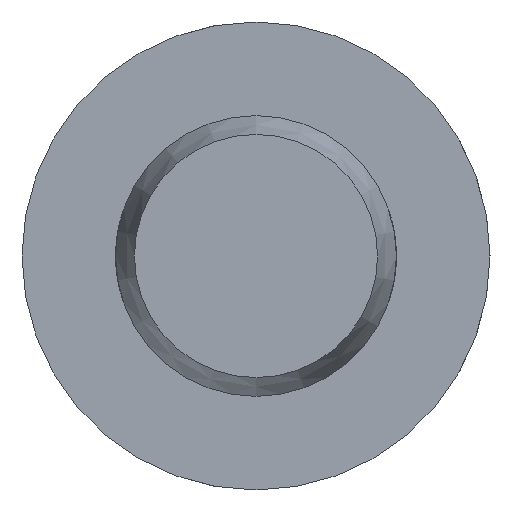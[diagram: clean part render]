
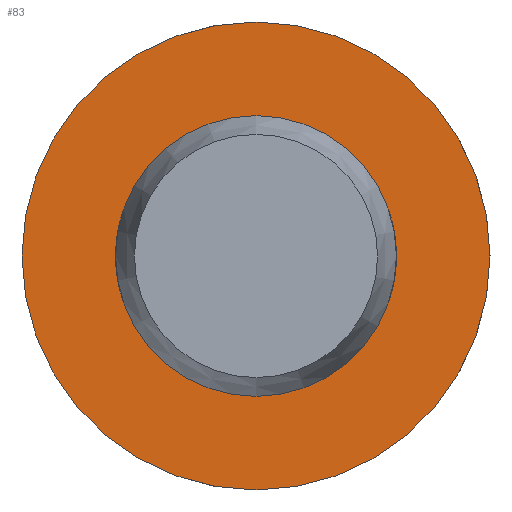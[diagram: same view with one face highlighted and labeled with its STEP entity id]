
A CAD part, left-side view. The second image highlights one B-rep face of the part: STEP entity #83.
In plain terms, the highlighted planar face has unit normal (-1, 0, 0).
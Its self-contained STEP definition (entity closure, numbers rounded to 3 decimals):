
#83 = ADVANCED_FACE( '', ( #129, #130 ), #131, .F. );
#129 = FACE_OUTER_BOUND( '', #208, .T. );
#130 = FACE_BOUND( '', #209, .T. );
#131 = PLANE( '', #210 );
#208 = EDGE_LOOP( '', ( #325 ) );
#209 = EDGE_LOOP( '', ( #326 ) );
#210 = AXIS2_PLACEMENT_3D( '', #327, #328, #329 );
#325 = ORIENTED_EDGE( '', *, *, #493, .F. );
#326 = ORIENTED_EDGE( '', *, *, #483, .T. );
#327 = CARTESIAN_POINT( '', ( 87., 3., 0. ) );
#328 = DIRECTION( '', ( 1., 0., 0. ) );
#329 = DIRECTION( '', ( 0., 0., -1. ) );
#483 = EDGE_CURVE( '', #554, #554, #555, .T. );
#493 = EDGE_CURVE( '', #572, #572, #573, .T. );
#554 = VERTEX_POINT( '', #741 );
#555 = CIRCLE( '', #742, 3. );
#572 = VERTEX_POINT( '', #850 );
#573 = CIRCLE( '', #851, 5. );
#741 = CARTESIAN_POINT( '', ( 87., 0., -3. ) );
#742 = AXIS2_PLACEMENT_3D( '', #914, #915, #916 );
#850 = CARTESIAN_POINT( '', ( 87., 0., -5. ) );
#851 = AXIS2_PLACEMENT_3D( '', #935, #936, #937 );
#914 = CARTESIAN_POINT( '', ( 87., 0., 0. ) );
#915 = DIRECTION( '', ( 1., 0., 0. ) );
#916 = DIRECTION( '', ( 0., 0., -1. ) );
#935 = CARTESIAN_POINT( '', ( 87., 0., 0. ) );
#936 = DIRECTION( '', ( 1., 0., 0. ) );
#937 = DIRECTION( '', ( 0., 0., -1. ) );
